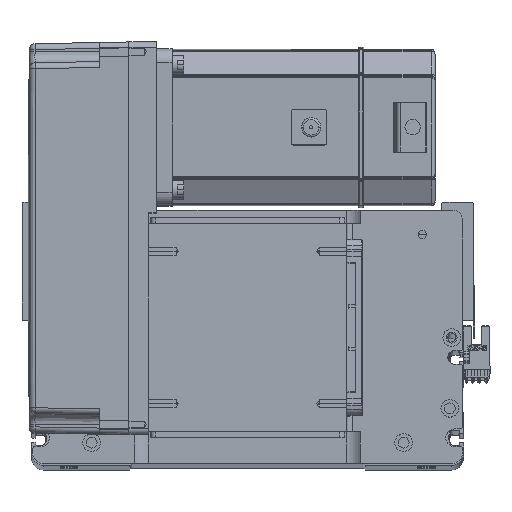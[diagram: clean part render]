
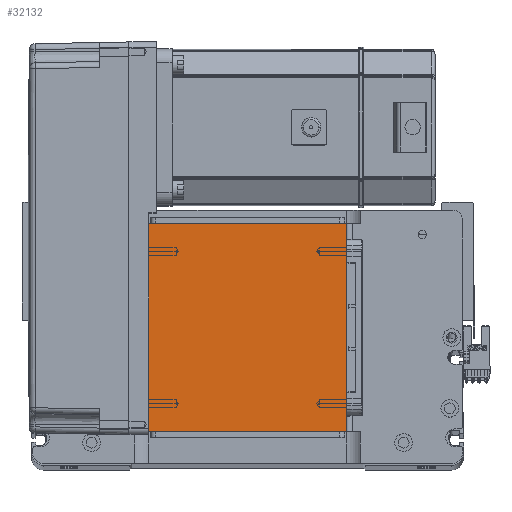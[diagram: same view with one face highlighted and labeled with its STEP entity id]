
A CAD part, top view. The second image highlights one B-rep face of the part: STEP entity #32132.
In plain terms, the highlighted planar face has unit normal (0, 0, 1).
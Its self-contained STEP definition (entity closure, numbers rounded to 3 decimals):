
#187 = ORIENTED_EDGE ( 'NONE', *, *, #33519, .T. ) ;
#1628 = EDGE_LOOP ( 'NONE', ( #10443, #4724, #28524, #187 ) ) ;
#3923 = DIRECTION ( 'NONE',  ( -1., 0., 0. ) ) ;
#4724 = ORIENTED_EDGE ( 'NONE', *, *, #43003, .T. ) ;
#6910 = DIRECTION ( 'NONE',  ( 0., 0., 1. ) ) ;
#10443 = ORIENTED_EDGE ( 'NONE', *, *, #10907, .T. ) ;
#10714 = DIRECTION ( 'NONE',  ( 1., 0., 0. ) ) ;
#10907 = EDGE_CURVE ( 'NONE', #39745, #39749, #40470, .T. ) ;
#11908 = LINE ( 'NONE', #19360, #45406 ) ;
#11948 = DIRECTION ( 'NONE',  ( 0., 1., 0. ) ) ;
#13486 = CARTESIAN_POINT ( 'NONE',  ( 50.5, 122., 115. ) ) ;
#13519 = VERTEX_POINT ( 'NONE', #28684 ) ;
#14087 = VECTOR ( 'NONE', #3923, 1000. ) ;
#15705 = LINE ( 'NONE', #52726, #18955 ) ;
#16848 = CARTESIAN_POINT ( 'NONE',  ( -50.5, 122., 115. ) ) ;
#18955 = VECTOR ( 'NONE', #11948, 1000. ) ;
#19360 = CARTESIAN_POINT ( 'NONE',  ( -50.5, 16., 115. ) ) ;
#22603 = DIRECTION ( 'NONE',  ( 1., 0., 0. ) ) ;
#23177 = CARTESIAN_POINT ( 'NONE',  ( 0., 0., 115. ) ) ;
#28524 = ORIENTED_EDGE ( 'NONE', *, *, #43175, .T. ) ;
#28684 = CARTESIAN_POINT ( 'NONE',  ( 50.5, 16., 115. ) ) ;
#30523 = VERTEX_POINT ( 'NONE', #13486 ) ;
#32132 = ADVANCED_FACE ( 'NONE', ( #34916 ), #52385, .T. ) ;
#33124 = DIRECTION ( 'NONE',  ( 0., -1., 0. ) ) ;
#33519 = EDGE_CURVE ( 'NONE', #30523, #39745, #37975, .T. ) ;
#34916 = FACE_OUTER_BOUND ( 'NONE', #1628, .T. ) ;
#36422 = CARTESIAN_POINT ( 'NONE',  ( -50.5, 122., 115. ) ) ;
#37975 = LINE ( 'NONE', #36422, #14087 ) ;
#39745 = VERTEX_POINT ( 'NONE', #16848 ) ;
#39749 = VERTEX_POINT ( 'NONE', #45156 ) ;
#40470 = LINE ( 'NONE', #41273, #53416 ) ;
#41273 = CARTESIAN_POINT ( 'NONE',  ( -50.5, 122., 115. ) ) ;
#43003 = EDGE_CURVE ( 'NONE', #39749, #13519, #11908, .T. ) ;
#43175 = EDGE_CURVE ( 'NONE', #13519, #30523, #15705, .T. ) ;
#45156 = CARTESIAN_POINT ( 'NONE',  ( -50.5, 16., 115. ) ) ;
#45406 = VECTOR ( 'NONE', #22603, 1000. ) ;
#52385 = PLANE ( 'NONE',  #52751 ) ;
#52726 = CARTESIAN_POINT ( 'NONE',  ( 50.5, 122., 115. ) ) ;
#52751 = AXIS2_PLACEMENT_3D ( 'NONE', #23177, #6910, #10714 ) ;
#53416 = VECTOR ( 'NONE', #33124, 1000. ) ;
